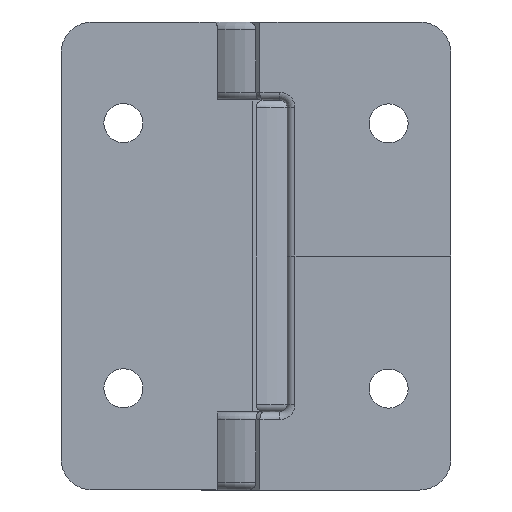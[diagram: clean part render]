
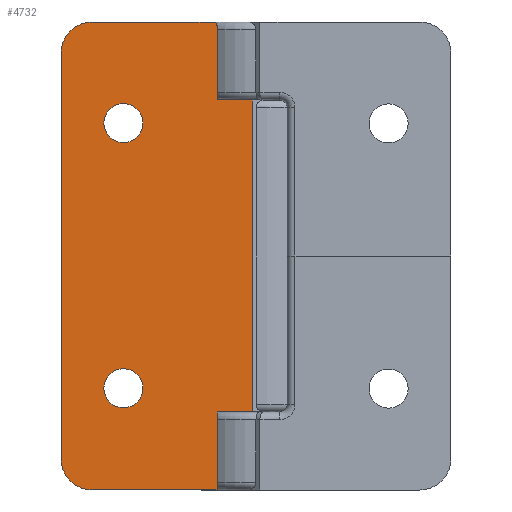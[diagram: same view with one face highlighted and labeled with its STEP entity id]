
A CAD part, front view. The second image highlights one B-rep face of the part: STEP entity #4732.
In plain terms, the highlighted planar face has unit normal (0, -1, 0).
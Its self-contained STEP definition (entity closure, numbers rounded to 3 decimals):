
#44 = CARTESIAN_POINT ( 'NONE',  ( 8., 0., -15.461 ) ) ;
#60 = CARTESIAN_POINT ( 'NONE',  ( 20., 0., -50. ) ) ;
#88 = CARTESIAN_POINT ( 'NONE',  ( 19.5, 0., 0. ) ) ;
#93 = CARTESIAN_POINT ( 'NONE',  ( 4., 0., -60. ) ) ;
#94 = CARTESIAN_POINT ( 'NONE',  ( 20., 0., -60. ) ) ;
#108 = CARTESIAN_POINT ( 'NONE',  ( 8., 0., -44.461 ) ) ;
#113 = CARTESIAN_POINT ( 'NONE',  ( 24.5, 0., -50. ) ) ;
#136 = CARTESIAN_POINT ( 'NONE',  ( 8., 0., -49.461 ) ) ;
#146 = CARTESIAN_POINT ( 'NONE',  ( 8., 0., -10.461 ) ) ;
#566 = ORIENTED_EDGE ( 'NONE', *, *, #4873, .T. ) ;
#567 = ORIENTED_EDGE ( 'NONE', *, *, #4804, .T. ) ;
#568 = ORIENTED_EDGE ( 'NONE', *, *, #4874, .T. ) ;
#569 = ORIENTED_EDGE ( 'NONE', *, *, #4812, .T. ) ;
#570 = ORIENTED_EDGE ( 'NONE', *, *, #4867, .T. ) ;
#571 = ORIENTED_EDGE ( 'NONE', *, *, #4875, .T. ) ;
#572 = ORIENTED_EDGE ( 'NONE', *, *, #4860, .F. ) ;
#573 = ORIENTED_EDGE ( 'NONE', *, *, #4876, .T. ) ;
#574 = ORIENTED_EDGE ( 'NONE', *, *, #4877, .F. ) ;
#575 = ORIENTED_EDGE ( 'NONE', *, *, #4878, .T. ) ;
#576 = ORIENTED_EDGE ( 'NONE', *, *, #4851, .T. ) ;
#577 = ORIENTED_EDGE ( 'NONE', *, *, #4859, .T. ) ;
#578 = ORIENTED_EDGE ( 'NONE', *, *, #4879, .T. ) ;
#579 = ORIENTED_EDGE ( 'NONE', *, *, #4870, .T. ) ;
#580 = ORIENTED_EDGE ( 'NONE', *, *, #4880, .T. ) ;
#1567 = EDGE_LOOP ( 'NONE', ( #566, #567 ) ) ;
#1614 = EDGE_LOOP ( 'NONE', ( #570, #571, #572, #573, #574, #575, #576, #577, #578, #579, #580 ) ) ;
#1654 = VERTEX_POINT ( 'NONE', #108 ) ;
#1671 = VERTEX_POINT ( 'NONE', #44 ) ;
#1673 = VERTEX_POINT ( 'NONE', #146 ) ;
#1682 = VERTEX_POINT ( 'NONE', #136 ) ;
#1685 = VERTEX_POINT ( 'NONE', #60 ) ;
#1691 = VERTEX_POINT ( 'NONE', #94 ) ;
#1692 = VERTEX_POINT ( 'NONE', #113 ) ;
#1694 = VERTEX_POINT ( 'NONE', #93 ) ;
#1706 = VERTEX_POINT ( 'NONE', #88 ) ;
#1718 = VERTEX_POINT ( 'NONE', #5036 ) ;
#1727 = VERTEX_POINT ( 'NONE', #5040 ) ;
#1728 = VERTEX_POINT ( 'NONE', #5044 ) ;
#1729 = VERTEX_POINT ( 'NONE', #5026 ) ;
#1730 = VERTEX_POINT ( 'NONE', #5034 ) ;
#1731 = VERTEX_POINT ( 'NONE', #5032 ) ;
#2183 = AXIS2_PLACEMENT_3D ( 'NONE', #2804, #2800, #2806 ) ;
#2243 = AXIS2_PLACEMENT_3D ( 'NONE', #3599, #3600, #3601 ) ;
#2247 = AXIS2_PLACEMENT_3D ( 'NONE', #3619, #3620, #3621 ) ;
#2800 = DIRECTION ( 'NONE',  ( 0., -1., 0. ) ) ;
#2804 = CARTESIAN_POINT ( 'NONE',  ( 0., 0., -60. ) ) ;
#2805 = PLANE ( 'NONE',  #2183 ) ;
#2806 = DIRECTION ( 'NONE',  ( 0., 0., -1. ) ) ;
#3097 = EDGE_LOOP ( 'NONE', ( #568, #569 ) ) ;
#3155 = FACE_OUTER_BOUND ( 'NONE', #1614, .T. ) ;
#3162 = FACE_BOUND ( 'NONE', #1567, .T. ) ;
#3164 = FACE_BOUND ( 'NONE', #3097, .T. ) ;
#3290 = CIRCLE ( 'NONE', #2243, 2.5 ) ;
#3301 = CIRCLE ( 'NONE', #2247, 2.5 ) ;
#3358 = LINE ( 'NONE', #3721, #3364 ) ;
#3364 = VECTOR ( 'NONE', #3726, 1000. ) ;
#3375 = LINE ( 'NONE', #3743, #3378 ) ;
#3377 = LINE ( 'NONE', #3745, #3380 ) ;
#3378 = VECTOR ( 'NONE', #3744, 1000. ) ;
#3380 = VECTOR ( 'NONE', #3747, 1000. ) ;
#3388 = CIRCLE ( 'NONE', #4018, 4. ) ;
#3390 = LINE ( 'NONE', #3760, #3393 ) ;
#3393 = VECTOR ( 'NONE', #3761, 1000. ) ;
#3396 = LINE ( 'NONE', #3766, #3399 ) ;
#3399 = VECTOR ( 'NONE', #3767, 1000. ) ;
#3400 = CIRCLE ( 'NONE', #4015, 2.5 ) ;
#3402 = CIRCLE ( 'NONE', #4014, 2.5 ) ;
#3403 = CIRCLE ( 'NONE', #4016, 0.5 ) ;
#3404 = CIRCLE ( 'NONE', #4017, 4. ) ;
#3405 = LINE ( 'NONE', #3784, #3407 ) ;
#3407 = VECTOR ( 'NONE', #3785, 1000. ) ;
#3408 = LINE ( 'NONE', #3793, #3410 ) ;
#3409 = LINE ( 'NONE', #3799, #3412 ) ;
#3410 = VECTOR ( 'NONE', #3789, 1000. ) ;
#3412 = VECTOR ( 'NONE', #3800, 1000. ) ;
#3599 = CARTESIAN_POINT ( 'NONE',  ( 8., 0., -12.961 ) ) ;
#3600 = DIRECTION ( 'NONE',  ( 0., 1., 0. ) ) ;
#3601 = DIRECTION ( 'NONE',  ( 0., 0., 1. ) ) ;
#3619 = CARTESIAN_POINT ( 'NONE',  ( 8., 0., -46.961 ) ) ;
#3620 = DIRECTION ( 'NONE',  ( 0., 1., 0. ) ) ;
#3621 = DIRECTION ( 'NONE',  ( 0., 0., 1. ) ) ;
#3721 = CARTESIAN_POINT ( 'NONE',  ( 0., 0., -60. ) ) ;
#3726 = DIRECTION ( 'NONE',  ( 1., 0., 0. ) ) ;
#3743 = CARTESIAN_POINT ( 'NONE',  ( 20., 0., -50. ) ) ;
#3744 = DIRECTION ( 'NONE',  ( 0., 0., 1. ) ) ;
#3745 = CARTESIAN_POINT ( 'NONE',  ( 0., 0., 0. ) ) ;
#3747 = DIRECTION ( 'NONE',  ( 1., 0., 0. ) ) ;
#3760 = CARTESIAN_POINT ( 'NONE',  ( 20., 0., 3.632 ) ) ;
#3761 = DIRECTION ( 'NONE',  ( 0., 0., 1. ) ) ;
#3766 = CARTESIAN_POINT ( 'NONE',  ( 24.5, 0., -60. ) ) ;
#3767 = DIRECTION ( 'NONE',  ( 0., 0., 1. ) ) ;
#3778 = CARTESIAN_POINT ( 'NONE',  ( 8., 0., -12.961 ) ) ;
#3779 = DIRECTION ( 'NONE',  ( 0., 1., 0. ) ) ;
#3780 = DIRECTION ( 'NONE',  ( 0., 0., 1. ) ) ;
#3781 = CARTESIAN_POINT ( 'NONE',  ( 8., 0., -46.961 ) ) ;
#3782 = DIRECTION ( 'NONE',  ( 0., 1., 0. ) ) ;
#3783 = DIRECTION ( 'NONE',  ( 0., 0., 1. ) ) ;
#3784 = CARTESIAN_POINT ( 'NONE',  ( 0., 0., -60. ) ) ;
#3785 = DIRECTION ( 'NONE',  ( 0., 0., 1. ) ) ;
#3786 = CARTESIAN_POINT ( 'NONE',  ( 19.5, 0., -0.5 ) ) ;
#3787 = DIRECTION ( 'NONE',  ( 0., -1., 0. ) ) ;
#3788 = DIRECTION ( 'NONE',  ( 0., 0., -1. ) ) ;
#3789 = DIRECTION ( 'NONE',  ( 1., 0., 0. ) ) ;
#3790 = CARTESIAN_POINT ( 'NONE',  ( 4., 0., -4. ) ) ;
#3791 = DIRECTION ( 'NONE',  ( 0., -1., 0. ) ) ;
#3792 = DIRECTION ( 'NONE',  ( 0., 0., -1. ) ) ;
#3793 = CARTESIAN_POINT ( 'NONE',  ( 33., 0., -50. ) ) ;
#3796 = CARTESIAN_POINT ( 'NONE',  ( 4., 0., -56. ) ) ;
#3797 = DIRECTION ( 'NONE',  ( 0., -1., 0. ) ) ;
#3798 = DIRECTION ( 'NONE',  ( 0., 0., -1. ) ) ;
#3799 = CARTESIAN_POINT ( 'NONE',  ( 33., 0., -10. ) ) ;
#3800 = DIRECTION ( 'NONE',  ( -1., 0., 0. ) ) ;
#4014 = AXIS2_PLACEMENT_3D ( 'NONE', #3778, #3779, #3780 ) ;
#4015 = AXIS2_PLACEMENT_3D ( 'NONE', #3781, #3782, #3783 ) ;
#4016 = AXIS2_PLACEMENT_3D ( 'NONE', #3786, #3787, #3788 ) ;
#4017 = AXIS2_PLACEMENT_3D ( 'NONE', #3790, #3791, #3792 ) ;
#4018 = AXIS2_PLACEMENT_3D ( 'NONE', #3796, #3797, #3798 ) ;
#4732 = ADVANCED_FACE ( 'NONE', ( #3162, #3164, #3155 ), #2805, .T. ) ;
#4804 = EDGE_CURVE ( 'NONE', #1671, #1673, #3290, .T. ) ;
#4812 = EDGE_CURVE ( 'NONE', #1682, #1654, #3301, .T. ) ;
#4851 = EDGE_CURVE ( 'NONE', #1694, #1691, #3358, .T. ) ;
#4859 = EDGE_CURVE ( 'NONE', #1691, #1685, #3375, .T. ) ;
#4860 = EDGE_CURVE ( 'NONE', #1718, #1706, #3377, .T. ) ;
#4867 = EDGE_CURVE ( 'NONE', #1728, #1729, #3390, .T. ) ;
#4870 = EDGE_CURVE ( 'NONE', #1692, #1727, #3396, .T. ) ;
#4873 = EDGE_CURVE ( 'NONE', #1673, #1671, #3402, .T. ) ;
#4874 = EDGE_CURVE ( 'NONE', #1654, #1682, #3400, .T. ) ;
#4875 = EDGE_CURVE ( 'NONE', #1729, #1706, #3403, .T. ) ;
#4876 = EDGE_CURVE ( 'NONE', #1718, #1731, #3404, .T. ) ;
#4877 = EDGE_CURVE ( 'NONE', #1730, #1731, #3405, .T. ) ;
#4878 = EDGE_CURVE ( 'NONE', #1730, #1694, #3388, .T. ) ;
#4879 = EDGE_CURVE ( 'NONE', #1685, #1692, #3408, .T. ) ;
#4880 = EDGE_CURVE ( 'NONE', #1727, #1728, #3409, .T. ) ;
#5026 = CARTESIAN_POINT ( 'NONE',  ( 20., 0., -0.5 ) ) ;
#5032 = CARTESIAN_POINT ( 'NONE',  ( 0., 0., -4. ) ) ;
#5034 = CARTESIAN_POINT ( 'NONE',  ( 0., 0., -56. ) ) ;
#5036 = CARTESIAN_POINT ( 'NONE',  ( 4., 0., 0. ) ) ;
#5040 = CARTESIAN_POINT ( 'NONE',  ( 24.5, 0., -10. ) ) ;
#5044 = CARTESIAN_POINT ( 'NONE',  ( 20., 0., -10. ) ) ;
